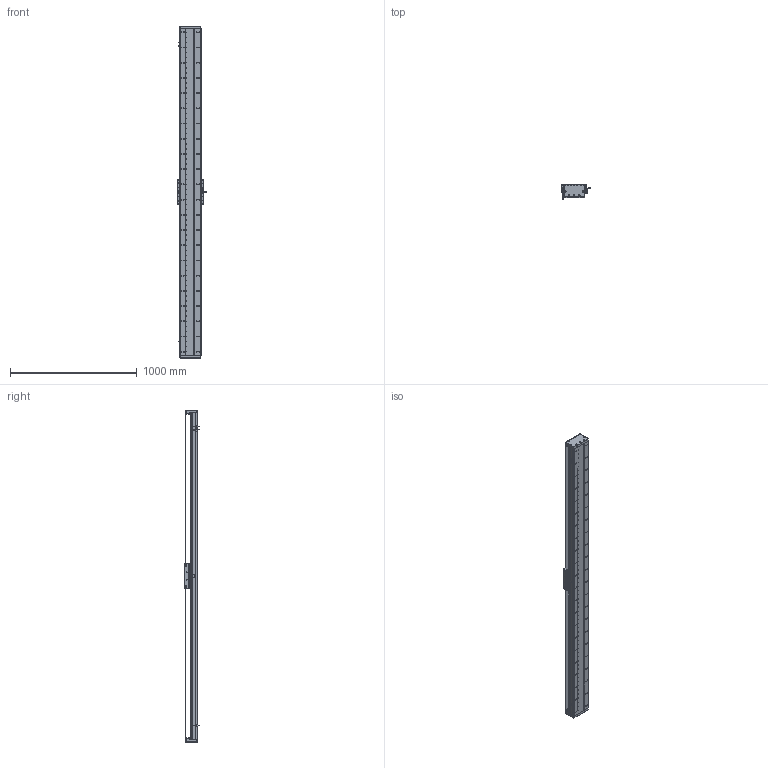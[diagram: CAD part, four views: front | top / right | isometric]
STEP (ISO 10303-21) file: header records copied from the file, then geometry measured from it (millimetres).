
FILE_DESCRIPTION (( 'STEP AP203' ), '1' );
FILE_NAME ('DA-C165-C2-T2340-C010-0.2 直线电机.STEP', '2023-05-11T07:47:20', ( '微软用户' ), ( '微软中国' ), 'SwSTEP 2.0', 'SolidWorks 2019', '' );
FILE_SCHEMA (( 'CONFIG_CONTROL_DESIGN' ));
Length unit declared in the file: millimetre
Products named in the file (18): 葩璃 DA95-GT-T-00^IU-CU165-L 菁釱絳寢_T; 复件 CKM02-W075-C1C2-TP-3.0 一体电机-C2^DA-C165-C2-T-C010-0.2-N 直线电机; 复件 DA165-GDLK-00 钢带拉块^复件 CU165钢带组件_DA-C165-C2-T-C010-0.2-N 直线电机; DA-C165-C2-T2340-C010-0.2 眻盄萇儂; 复件 XD-U-02L 磁栅尺^DA-C165-C2-T-C010-0.2-N 直线电机_T; 复件 DMA-010-0.2 读数头^DA-C165-C2-T-C010-0.2-N 直线电机; 葩璃 PM-T45^DA-C165-C2-T-C010-0.2-N 眻盄萇儂; 珨极趙賑雄怢啣wf-C2; 复件 DA165-GYP-00 光电感应片^DA-C165-C2-T-C010-0.2-N 直线电机; IU-CU165-L-00 菁釱_L2580; 复件 DA165-GDYK-00 钢带压块^复件 CU165钢带组件_DA-C165-C2-T-C010-0.2-N 直线电机; IU-CU165-L 菁釱絳寢; 复件 六角薄螺母 M3^DA-C165-C2-T-C010-0.2-N 直线电机_GB_FASTENER_NUT_STNAB M3-C; 复件 DA165-GD-1860-002-00 钢带盖板^复件 CU165钢带组件_DA-C165-C2-T-C010-0.2-N 直线电机; 复件 CU165钢带组件^DA-C165-C2-T-C010-0.2-N 直线电机; 葩璃 CKM01-W075-TRL^DA-C165-C2-T-C010-0.2-N 眻盄萇儂; 复件 DA165-GD-DG-H-00 端盖^复件 CU165钢带组件_DA-C165-C2-T-C010-0.2-N 直线电机; 复件 DA95-HXJ-00 缓冲橡胶^DA-C165-C2-T-C010-0.2-N 直线电机
Assembly tree (33 placements, depth 3):
  DA-C165-C2-T2340-C010-0.2 眻盄萇儂
    IU-CU165-L 菁釱絳寢
      IU-CU165-L-00 菁釱_L2580
      葩璃 DA95-GT-T-00^IU-CU165-L 菁釱絳寢_T  x4
    复件 XD-U-02L 磁栅尺^DA-C165-C2-T-C010-0.2-N 直线电机_T
    葩璃 PM-T45^DA-C165-C2-T-C010-0.2-N 眻盄萇儂  x3
    葩璃 CKM01-W075-TRL^DA-C165-C2-T-C010-0.2-N 眻盄萇儂
    复件 CU165钢带组件^DA-C165-C2-T-C010-0.2-N 直线电机
      复件 DA165-GD-DG-H-00 端盖^复件 CU165钢带组件_DA-C165-C2-T-C010-0.2-N 直线电机  x2
      复件 DA165-GDYK-00 钢带压块^复件 CU165钢带组件_DA-C165-C2-T-C010-0.2-N 直线电机  x2
      复件 DA165-GD-1860-002-00 钢带盖板^复件 CU165钢带组件_DA-C165-C2-T-C010-0.2-N 直线电机
      复件 DA165-GDLK-00 钢带拉块^复件 CU165钢带组件_DA-C165-C2-T-C010-0.2-N 直线电机  x2
    复件 DA95-HXJ-00 缓冲橡胶^DA-C165-C2-T-C010-0.2-N 直线电机  x4
    复件 DA165-GYP-00 光电感应片^DA-C165-C2-T-C010-0.2-N 直线电机
    复件 DMA-010-0.2 读数头^DA-C165-C2-T-C010-0.2-N 直线电机
    复件 CKM02-W075-C1C2-TP-3.0 一体电机-C2^DA-C165-C2-T-C010-0.2-N 直线电机
    复件 六角薄螺母 M3^DA-C165-C2-T-C010-0.2-N 直线电机_GB_FASTENER_NUT_STNAB M3-C  x6
    珨极趙賑雄怢啣wf-C2
Bounding box: 233 x 111.45 x 2620 mm (x, y, z)
Volume: 14565070.3 mm3; surface area: 4386642.1 mm2
Topology: 70 solids, 70 shells, 3891 faces, 11443 edges, 7313 vertices
Faces by surface type: cylinder 2309, plane 1102, cone 430, torus 46, sphere 4
Entity records: 131649 total; most frequent: CARTESIAN_POINT 35787, ORIENTED_EDGE 20058, DIRECTION 19255, EDGE_CURVE 10029, AXIS2_PLACEMENT_3D 7359, VERTEX_POINT 6549, EDGE_LOOP 4570, LINE 4537
